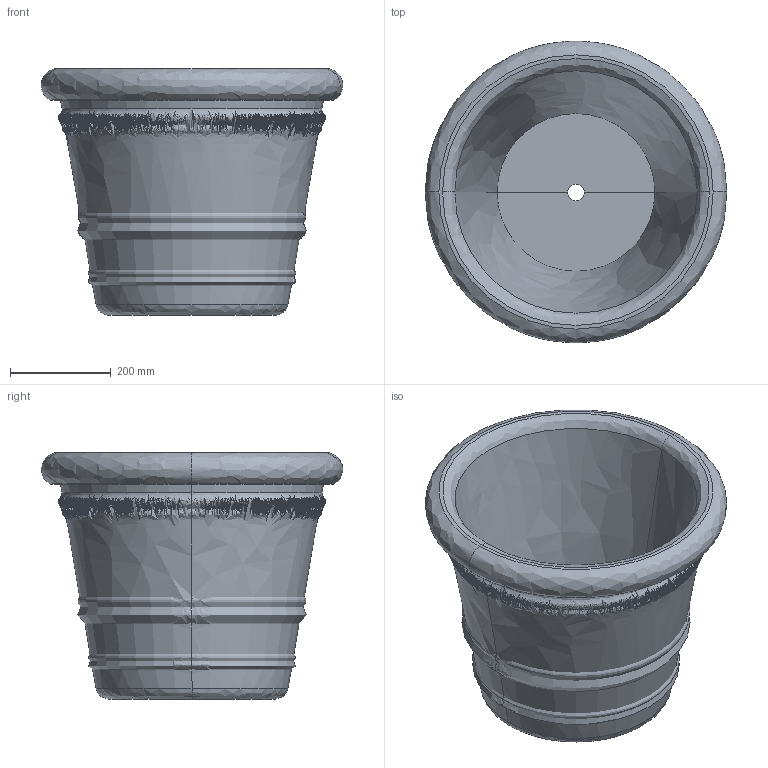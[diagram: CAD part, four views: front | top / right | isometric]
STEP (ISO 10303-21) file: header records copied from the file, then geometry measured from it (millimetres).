
FILE_DESCRIPTION(/* description */ (''),/* implementation_level */ '2;1');
FILE_NAME(/* name */ '60',/* time_stamp */ '2026-07-16T10:57:54+02:00',/* author */ (''),/* organization */ (''),/* preprocessor_version */ 'ST-DEVELOPER v19.2',/* originating_system */ 'Rhino 8.33',/* authorisation */ '');
FILE_SCHEMA (('CONFIG_CONTROL_DESIGN'));
Length unit declared in the file: millimetre
Products named in the file (1): Document
Bounding box: 599.45 x 599.62 x 489.44 mm (x, y, z)
Volume: 26191964.4 mm3; surface area: 1707519.8 mm2
Topology: 1 solids, 1 shells, 22 faces, 44 edges, 24 vertices
Faces by surface type: bspline 16, plane 4, cylinder 2
Entity records: 1632 total; most frequent: CARTESIAN_POINT 1142, ORIENTED_EDGE 88, DIRECTION 70, EDGE_CURVE 44, AXIS2_PLACEMENT_3D 38, TRIMMED_CURVE 30, CIRCLE 30, EDGE_LOOP 24
